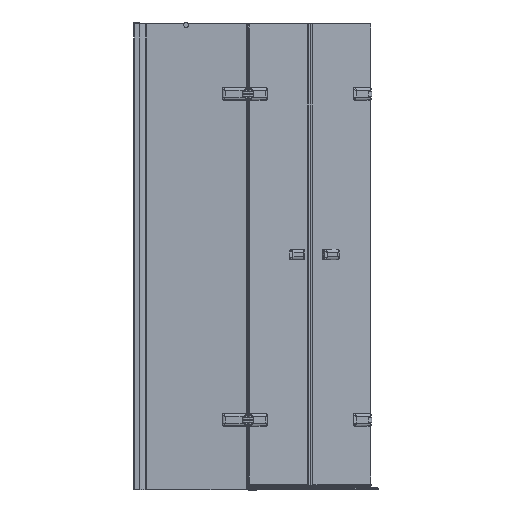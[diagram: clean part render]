
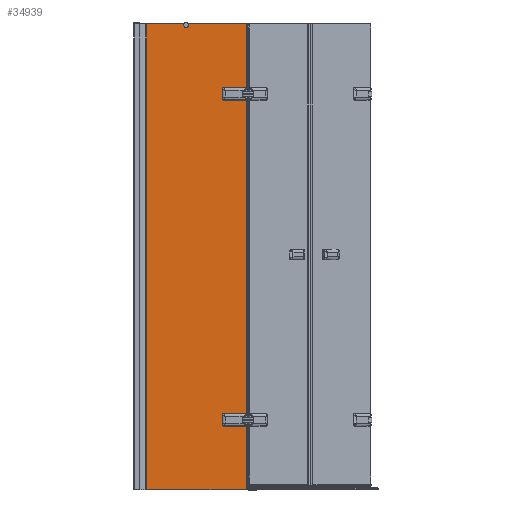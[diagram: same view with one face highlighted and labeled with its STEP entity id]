
A CAD part, front view. The second image highlights one B-rep face of the part: STEP entity #34939.
In plain terms, the highlighted planar face has unit normal (0, -1, 0).
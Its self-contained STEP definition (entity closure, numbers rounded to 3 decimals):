
#1398=PLANE($,#37301);
#2804=FACE_OUTER_BOUND($,#4688,.T.);
#4688=EDGE_LOOP($,(#25279,#25280,#25281,#25282,#25283,#25284,#25285,#25286,
#25287,#25288,#25289,#25290,#25291,#25292,#25293,#25294,#25295,#25296,#25297,
#25298,#25299,#25300));
#6441=CIRCLE($,#37073,5.);
#6445=CIRCLE($,#37082,5.);
#6478=CIRCLE($,#37155,5.);
#6480=CIRCLE($,#37159,5.);
#6526=CIRCLE($,#37302,5.);
#6527=CIRCLE($,#37303,5.);
#6528=CIRCLE($,#37304,5.);
#6529=CIRCLE($,#37305,5.);
#6530=CIRCLE($,#37306,10.);
#8088=LINE($,#69440,#11307);
#8092=LINE($,#69452,#11311);
#8096=LINE($,#69463,#11315);
#8196=LINE($,#70316,#11415);
#8200=LINE($,#70323,#11419);
#8230=LINE($,#70408,#11449);
#8231=LINE($,#70412,#11450);
#8232=LINE($,#70416,#11451);
#8233=LINE($,#70420,#11452);
#8234=LINE($,#70422,#11453);
#8235=LINE($,#70426,#11454);
#8236=LINE($,#70428,#11455);
#8237=LINE($,#70429,#11456);
#11307=VECTOR($,#42133,96.);
#11311=VECTOR($,#42145,42.);
#11315=VECTOR($,#42157,96.);
#11415=VECTOR($,#42509,274.172);
#11419=VECTOR($,#42515,1348.202);
#11449=VECTOR($,#42573,96.);
#11450=VECTOR($,#42576,42.);
#11451=VECTOR($,#42579,96.);
#11452=VECTOR($,#42582,274.101);
#11453=VECTOR($,#42583,249.366);
#11454=VECTOR($,#42586,164.716);
#11455=VECTOR($,#42587,2000.);
#11456=VECTOR($,#42588,432.243);
#14654=VERTEX_POINT($,#69068);
#14655=VERTEX_POINT($,#69070);
#14683=VERTEX_POINT($,#69135);
#14685=VERTEX_POINT($,#69138);
#14786=VERTEX_POINT($,#69439);
#14788=VERTEX_POINT($,#69445);
#14790=VERTEX_POINT($,#69451);
#14792=VERTEX_POINT($,#69457);
#14888=VERTEX_POINT($,#70315);
#14890=VERTEX_POINT($,#70321);
#14920=VERTEX_POINT($,#70405);
#14921=VERTEX_POINT($,#70407);
#14922=VERTEX_POINT($,#70409);
#14923=VERTEX_POINT($,#70411);
#14924=VERTEX_POINT($,#70413);
#14925=VERTEX_POINT($,#70415);
#14926=VERTEX_POINT($,#70417);
#14927=VERTEX_POINT($,#70419);
#14928=VERTEX_POINT($,#70421);
#14929=VERTEX_POINT($,#70423);
#14930=VERTEX_POINT($,#70425);
#14931=VERTEX_POINT($,#70427);
#18381=EDGE_CURVE($,#14655,#14654,#6441,.T.);
#18412=EDGE_CURVE($,#14685,#14683,#6445,.T.);
#18560=EDGE_CURVE($,#14654,#14786,#8088,.T.);
#18563=EDGE_CURVE($,#14786,#14788,#6478,.T.);
#18566=EDGE_CURVE($,#14788,#14790,#8092,.T.);
#18569=EDGE_CURVE($,#14790,#14792,#6480,.T.);
#18572=EDGE_CURVE($,#14792,#14685,#8096,.T.);
#18741=EDGE_CURVE($,#14888,#14655,#8196,.T.);
#18745=EDGE_CURVE($,#14683,#14890,#8200,.T.);
#18783=EDGE_CURVE($,#14890,#14920,#6526,.T.);
#18784=EDGE_CURVE($,#14920,#14921,#8230,.T.);
#18785=EDGE_CURVE($,#14921,#14922,#6527,.T.);
#18786=EDGE_CURVE($,#14922,#14923,#8231,.T.);
#18787=EDGE_CURVE($,#14923,#14924,#6528,.T.);
#18788=EDGE_CURVE($,#14924,#14925,#8232,.T.);
#18789=EDGE_CURVE($,#14925,#14926,#6529,.T.);
#18790=EDGE_CURVE($,#14926,#14927,#8233,.T.);
#18791=EDGE_CURVE($,#14927,#14928,#8234,.T.);
#18792=EDGE_CURVE($,#14928,#14929,#6530,.T.);
#18793=EDGE_CURVE($,#14929,#14930,#8235,.T.);
#18794=EDGE_CURVE($,#14930,#14931,#8236,.T.);
#18795=EDGE_CURVE($,#14888,#14931,#8237,.T.);
#25279=ORIENTED_EDGE($,*,*,#18381,.T.);
#25280=ORIENTED_EDGE($,*,*,#18560,.T.);
#25281=ORIENTED_EDGE($,*,*,#18563,.T.);
#25282=ORIENTED_EDGE($,*,*,#18566,.T.);
#25283=ORIENTED_EDGE($,*,*,#18569,.T.);
#25284=ORIENTED_EDGE($,*,*,#18572,.T.);
#25285=ORIENTED_EDGE($,*,*,#18412,.T.);
#25286=ORIENTED_EDGE($,*,*,#18745,.T.);
#25287=ORIENTED_EDGE($,*,*,#18783,.T.);
#25288=ORIENTED_EDGE($,*,*,#18784,.T.);
#25289=ORIENTED_EDGE($,*,*,#18785,.T.);
#25290=ORIENTED_EDGE($,*,*,#18786,.T.);
#25291=ORIENTED_EDGE($,*,*,#18787,.T.);
#25292=ORIENTED_EDGE($,*,*,#18788,.T.);
#25293=ORIENTED_EDGE($,*,*,#18789,.T.);
#25294=ORIENTED_EDGE($,*,*,#18790,.T.);
#25295=ORIENTED_EDGE($,*,*,#18791,.T.);
#25296=ORIENTED_EDGE($,*,*,#18792,.T.);
#25297=ORIENTED_EDGE($,*,*,#18793,.T.);
#25298=ORIENTED_EDGE($,*,*,#18794,.T.);
#25299=ORIENTED_EDGE($,*,*,#18795,.F.);
#25300=ORIENTED_EDGE($,*,*,#18741,.T.);
#34939=ADVANCED_FACE($,(#2804),#1398,.T.);
#37073=AXIS2_PLACEMENT_3D($,#69071,#41840,#41841);
#37082=AXIS2_PLACEMENT_3D($,#69139,#41883,#41884);
#37155=AXIS2_PLACEMENT_3D($,#69446,#42138,#42139);
#37159=AXIS2_PLACEMENT_3D($,#69458,#42150,#42151);
#37301=AXIS2_PLACEMENT_3D($,#70404,#42569,#42570);
#37302=AXIS2_PLACEMENT_3D($,#70406,#42571,#42572);
#37303=AXIS2_PLACEMENT_3D($,#70410,#42574,#42575);
#37304=AXIS2_PLACEMENT_3D($,#70414,#42577,#42578);
#37305=AXIS2_PLACEMENT_3D($,#70418,#42580,#42581);
#37306=AXIS2_PLACEMENT_3D($,#70424,#42584,#42585);
#41840=DIRECTION('center_axis',(0.,1.,0.));
#41841=DIRECTION('ref_axis',(0.,0.,
1.));
#41883=DIRECTION('center_axis',(0.,1.,0.));
#41884=DIRECTION('ref_axis',(-1.,0.,0.));
#42133=DIRECTION($,(-1.,0.,0.));
#42138=DIRECTION('center_axis',(0.,1.,0.));
#42139=DIRECTION('ref_axis',(1.,0.,0.));
#42145=DIRECTION($,(0.,0.,1.));
#42150=DIRECTION('center_axis',(0.,1.,0.));
#42151=DIRECTION('ref_axis',(0.,0.,
-1.));
#42157=DIRECTION($,(1.,0.,0.));
#42509=DIRECTION($,(0.,0.,1.));
#42515=DIRECTION($,(0.,0.,1.));
#42569=DIRECTION('center_axis',(0.,-1.,0.));
#42570=DIRECTION('ref_axis',(-1.,0.,0.));
#42571=DIRECTION('center_axis',(0.,1.,0.));
#42572=DIRECTION('ref_axis',(0.,0.,
1.));
#42573=DIRECTION($,(-1.,0.,0.));
#42574=DIRECTION('center_axis',(0.,1.,0.));
#42575=DIRECTION('ref_axis',(1.,0.,0.));
#42576=DIRECTION($,(0.,0.,1.));
#42577=DIRECTION('center_axis',(0.,1.,0.));
#42578=DIRECTION('ref_axis',(0.,0.,
-1.));
#42579=DIRECTION($,(1.,0.,0.));
#42580=DIRECTION('center_axis',(0.,1.,0.));
#42581=DIRECTION('ref_axis',(-1.,0.,0.));
#42582=DIRECTION($,(0.,0.,1.));
#42583=DIRECTION($,(-1.,0.,0.));
#42584=DIRECTION('center_axis',(0.,1.,0.));
#42585=DIRECTION('ref_axis',(-1.,0.,0.));
#42586=DIRECTION($,(-1.,0.,0.));
#42587=DIRECTION($,(0.,0.,-1.));
#42588=DIRECTION($,(-1.,0.,0.));
#69068=CARTESIAN_POINT('',(761.248,-149.729,-140.056));
#69070=CARTESIAN_POINT('',(762.548,-149.729,-139.884));
#69071=CARTESIAN_POINT('Origin',(761.248,-149.729,-135.056));
#69135=CARTESIAN_POINT('',(762.248,-149.729,-88.157));
#69138=CARTESIAN_POINT('',(761.248,-149.729,-88.056));
#69139=CARTESIAN_POINT('Origin',(761.248,-149.729,-93.056));
#69439=CARTESIAN_POINT('',(665.248,-149.729,-140.056));
#69440=CARTESIAN_POINT($,(716.248,-149.729,-140.056));
#69445=CARTESIAN_POINT('',(660.248,-149.729,-135.056));
#69446=CARTESIAN_POINT('Origin',(665.248,-149.729,-135.056));
#69451=CARTESIAN_POINT('',(660.248,-149.729,-93.056));
#69452=CARTESIAN_POINT($,(660.248,-149.729,746.444));
#69457=CARTESIAN_POINT('',(665.248,-149.729,-88.056));
#69458=CARTESIAN_POINT('Origin',(665.248,-149.729,-93.056));
#69463=CARTESIAN_POINT($,(764.248,-149.729,-88.056));
#70315=CARTESIAN_POINT('',(762.548,-149.729,-414.056));
#70316=CARTESIAN_POINT($,(762.548,-149.729,585.944));
#70321=CARTESIAN_POINT('',(762.248,-149.729,1260.045));
#70323=CARTESIAN_POINT($,(762.248,-149.729,740.944));
#70404=CARTESIAN_POINT('Origin',(767.248,-149.729,1585.944));
#70405=CARTESIAN_POINT('',(761.248,-149.729,1259.944));
#70406=CARTESIAN_POINT('Origin',(761.248,-149.729,1264.944));
#70407=CARTESIAN_POINT('',(665.248,-149.729,1259.944));
#70408=CARTESIAN_POINT($,(716.248,-149.729,1259.944));
#70409=CARTESIAN_POINT('',(660.248,-149.729,1264.944));
#70410=CARTESIAN_POINT('Origin',(665.248,-149.729,1264.944));
#70411=CARTESIAN_POINT('',(660.248,-149.729,1306.944));
#70412=CARTESIAN_POINT($,(660.248,-149.729,1446.444));
#70413=CARTESIAN_POINT('',(665.248,-149.729,1311.944));
#70414=CARTESIAN_POINT('Origin',(665.248,-149.729,1306.944));
#70415=CARTESIAN_POINT('',(761.248,-149.729,1311.944));
#70416=CARTESIAN_POINT($,(764.248,-149.729,1311.944));
#70417=CARTESIAN_POINT('',(762.248,-149.729,1311.843));
#70418=CARTESIAN_POINT('Origin',(761.248,-149.729,1306.944));
#70419=CARTESIAN_POINT('',(762.248,-149.729,1585.944));
#70420=CARTESIAN_POINT($,(762.248,-149.729,1585.944));
#70421=CARTESIAN_POINT('',(512.882,-149.729,1585.944));
#70422=CARTESIAN_POINT($,(767.248,-149.729,1585.944));
#70423=CARTESIAN_POINT('',(495.021,-149.729,1585.944));
#70424=CARTESIAN_POINT('Origin',(503.951,-149.729,1581.444));
#70425=CARTESIAN_POINT('',(330.305,-149.729,1585.944));
#70426=CARTESIAN_POINT($,(767.248,-149.729,1585.944));
#70427=CARTESIAN_POINT('',(330.305,-149.729,-414.056));
#70428=CARTESIAN_POINT($,(330.305,-149.729,585.944));
#70429=CARTESIAN_POINT($,(767.248,-149.729,-414.056));
